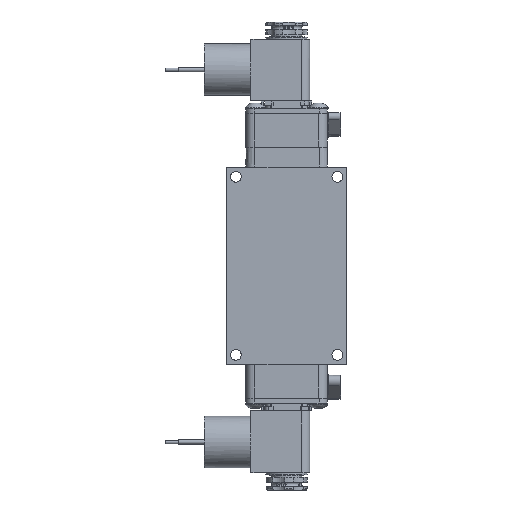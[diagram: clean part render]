
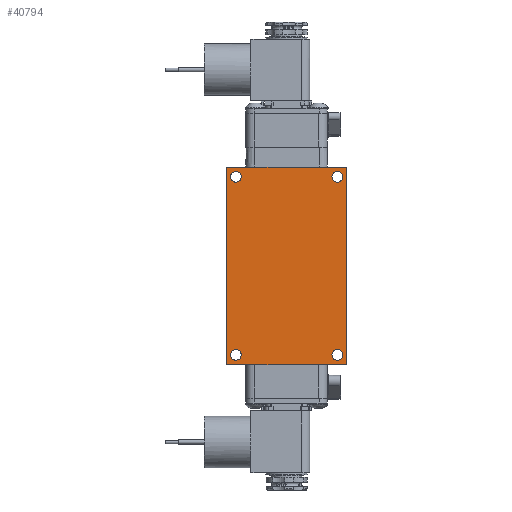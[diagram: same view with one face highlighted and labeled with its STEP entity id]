
A CAD part, front view. The second image highlights one B-rep face of the part: STEP entity #40794.
In plain terms, the highlighted planar face has unit normal (0, -1, 0).
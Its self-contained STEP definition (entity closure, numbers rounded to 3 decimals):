
#1548=FACE_BOUND('',#6308,.T.);
#1549=FACE_BOUND('',#6309,.T.);
#1550=FACE_BOUND('',#6310,.T.);
#1551=FACE_BOUND('',#6311,.T.);
#2215=PLANE('',#44280);
#3834=FACE_OUTER_BOUND('',#6307,.T.);
#6307=EDGE_LOOP('',(#30687,#30688,#30689,#30690));
#6308=EDGE_LOOP('',(#30691));
#6309=EDGE_LOOP('',(#30692));
#6310=EDGE_LOOP('',(#30693));
#6311=EDGE_LOOP('',(#30694));
#8855=CIRCLE('',#44281,0.258);
#8856=CIRCLE('',#44282,0.258);
#8857=CIRCLE('',#44283,0.258);
#8858=CIRCLE('',#44284,0.258);
#11386=LINE('',#66909,#14301);
#11387=LINE('',#66911,#14302);
#11388=LINE('',#66913,#14303);
#11389=LINE('',#66914,#14304);
#14301=VECTOR('',#52373,1.);
#14302=VECTOR('',#52374,1.);
#14303=VECTOR('',#52375,1.);
#14304=VECTOR('',#52376,1.);
#17569=VERTEX_POINT('',#66907);
#17570=VERTEX_POINT('',#66908);
#17571=VERTEX_POINT('',#66910);
#17572=VERTEX_POINT('',#66912);
#17573=VERTEX_POINT('',#66915);
#17574=VERTEX_POINT('',#66917);
#17575=VERTEX_POINT('',#66919);
#17576=VERTEX_POINT('',#66921);
#22275=EDGE_CURVE('',#17569,#17570,#11386,.T.);
#22276=EDGE_CURVE('',#17571,#17569,#11387,.T.);
#22277=EDGE_CURVE('',#17572,#17571,#11388,.T.);
#22278=EDGE_CURVE('',#17570,#17572,#11389,.T.);
#22279=EDGE_CURVE('',#17573,#17573,#8855,.T.);
#22280=EDGE_CURVE('',#17574,#17574,#8856,.T.);
#22281=EDGE_CURVE('',#17575,#17575,#8857,.T.);
#22282=EDGE_CURVE('',#17576,#17576,#8858,.T.);
#30687=ORIENTED_EDGE('',*,*,#22275,.F.);
#30688=ORIENTED_EDGE('',*,*,#22276,.F.);
#30689=ORIENTED_EDGE('',*,*,#22277,.F.);
#30690=ORIENTED_EDGE('',*,*,#22278,.F.);
#30691=ORIENTED_EDGE('',*,*,#22279,.T.);
#30692=ORIENTED_EDGE('',*,*,#22280,.T.);
#30693=ORIENTED_EDGE('',*,*,#22281,.T.);
#30694=ORIENTED_EDGE('',*,*,#22282,.T.);
#40794=ADVANCED_FACE('',(#3834,#1548,#1549,#1550,#1551),#2215,.F.);
#44280=AXIS2_PLACEMENT_3D('',#66906,#52371,#52372);
#44281=AXIS2_PLACEMENT_3D('',#66916,#52377,#52378);
#44282=AXIS2_PLACEMENT_3D('',#66918,#52379,#52380);
#44283=AXIS2_PLACEMENT_3D('',#66920,#52381,#52382);
#44284=AXIS2_PLACEMENT_3D('',#66922,#52383,#52384);
#52371=DIRECTION('center_axis',(0.,1.,0.));
#52372=DIRECTION('ref_axis',(0.,0.,1.));
#52373=DIRECTION('',(0.,0.,1.));
#52374=DIRECTION('',(-1.,0.,0.));
#52375=DIRECTION('',(0.,0.,-1.));
#52376=DIRECTION('',(1.,0.,0.));
#52377=DIRECTION('center_axis',(0.,1.,0.));
#52378=DIRECTION('ref_axis',(-1.,0.,0.));
#52379=DIRECTION('center_axis',(0.,1.,0.));
#52380=DIRECTION('ref_axis',(-1.,0.,0.));
#52381=DIRECTION('center_axis',(0.,1.,0.));
#52382=DIRECTION('ref_axis',(-1.,0.,0.));
#52383=DIRECTION('center_axis',(0.,1.,0.));
#52384=DIRECTION('ref_axis',(-1.,0.,0.));
#66906=CARTESIAN_POINT('Origin',(0.,-1.636,0.));
#66907=CARTESIAN_POINT('',(-2.858,-1.636,-4.71));
#66908=CARTESIAN_POINT('',(-2.858,-1.636,4.71));
#66909=CARTESIAN_POINT('',(-2.858,-1.636,-4.71));
#66910=CARTESIAN_POINT('',(2.858,-1.636,-4.71));
#66911=CARTESIAN_POINT('',(2.858,-1.636,-4.71));
#66912=CARTESIAN_POINT('',(2.858,-1.636,4.71));
#66913=CARTESIAN_POINT('',(2.858,-1.636,4.71));
#66914=CARTESIAN_POINT('',(-2.858,-1.636,4.71));
#66915=CARTESIAN_POINT('',(-2.163,-1.636,-4.247));
#66916=CARTESIAN_POINT('Origin',(-2.421,-1.636,-4.247));
#66917=CARTESIAN_POINT('',(-2.163,-1.636,4.247));
#66918=CARTESIAN_POINT('Origin',(-2.421,-1.636,4.247));
#66919=CARTESIAN_POINT('',(2.678,-1.636,-4.247));
#66920=CARTESIAN_POINT('Origin',(2.421,-1.636,-4.247));
#66921=CARTESIAN_POINT('',(2.678,-1.636,4.247));
#66922=CARTESIAN_POINT('Origin',(2.421,-1.636,4.247));
